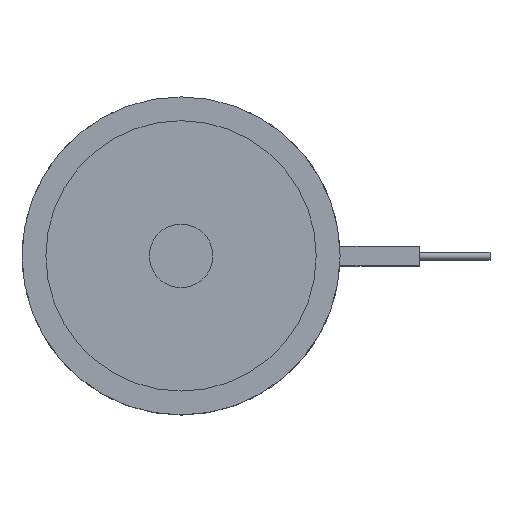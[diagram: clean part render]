
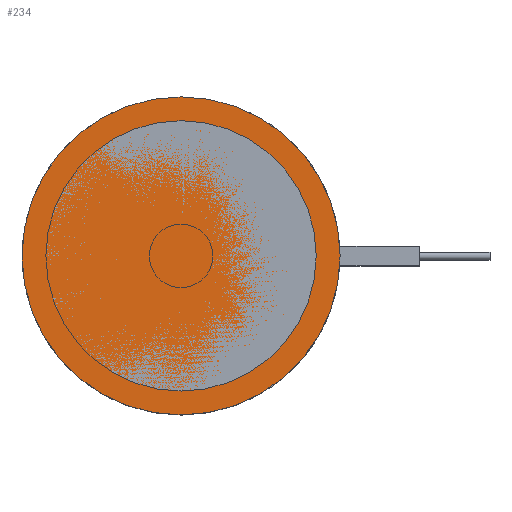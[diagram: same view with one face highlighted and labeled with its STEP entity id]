
A CAD part, top view. The second image highlights one B-rep face of the part: STEP entity #234.
In plain terms, the highlighted planar face has unit normal (0, 0, 1).
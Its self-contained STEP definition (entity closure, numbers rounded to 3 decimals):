
#234=ADVANCED_FACE('',(#330),#299,.F.);
#299=PLANE('',#1038);
#330=FACE_OUTER_BOUND('',#435,.T.);
#435=EDGE_LOOP('',(#537));
#537=ORIENTED_EDGE('',*,*,#857,.F.);
#769=VERTEX_POINT('',#1466);
#857=EDGE_CURVE('',#769,#769,#973,.T.);
#973=CIRCLE('',#1037,20.);
#1037=AXIS2_PLACEMENT_3D('',#1465,#1171,#1172);
#1038=AXIS2_PLACEMENT_3D('',#1467,#1173,#1174);
#1171=DIRECTION('',(0.,0.,-1.));
#1172=DIRECTION('',(-1.,0.,0.));
#1173=DIRECTION('',(0.,0.,-1.));
#1174=DIRECTION('',(-1.,0.,0.));
#1465=CARTESIAN_POINT('',(0.,0.,0.));
#1466=CARTESIAN_POINT('',(-20.,0.,0.));
#1467=CARTESIAN_POINT('',(0.,0.,0.));
